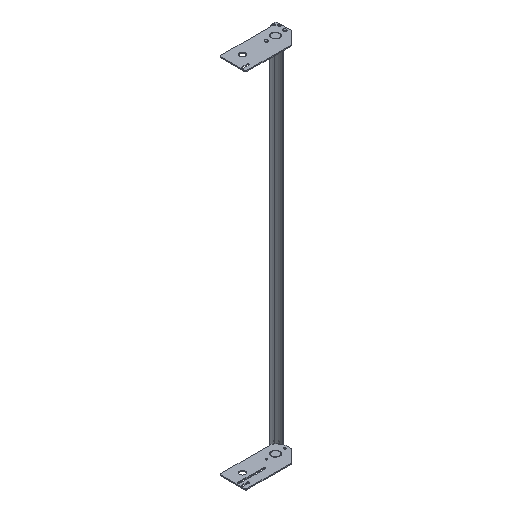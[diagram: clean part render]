
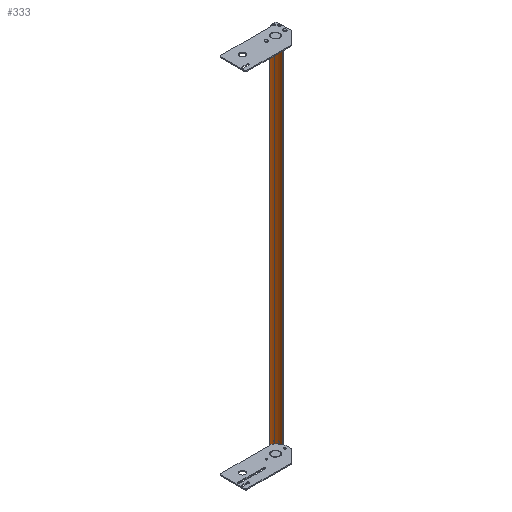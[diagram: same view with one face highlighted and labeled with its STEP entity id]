
A CAD part, isometric view. The second image highlights one B-rep face of the part: STEP entity #333.
In plain terms, the highlighted cylindrical face has radius 40.64 mm (diameter 81.28 mm), a partial arc.
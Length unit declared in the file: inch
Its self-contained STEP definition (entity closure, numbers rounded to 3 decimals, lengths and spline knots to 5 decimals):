
#40=CARTESIAN_POINT('',(-1.52,1.63,-24.118));
#41=DIRECTION('',(0.,0.,-1.));
#42=DIRECTION('',(0.914,-0.405,0.));
#43=AXIS2_PLACEMENT_3D('',#40,#41,#42);
#87=CARTESIAN_POINT('',(-1.52,1.63,24.118));
#88=DIRECTION('',(0.,0.,-1.));
#89=DIRECTION('',(0.914,-0.405,0.));
#90=AXIS2_PLACEMENT_3D('',#87,#88,#89);
#118=DIRECTION('',(0.,0.,1.));
#119=VECTOR('',#118,48.236);
#120=CARTESIAN_POINT('',(-1.00032,0.11675,-24.118));
#121=LINE('',#120,#119);
#122=DIRECTION('',(0.,0.,1.));
#123=VECTOR('',#122,48.236);
#124=CARTESIAN_POINT('',(-0.05742,0.98126,-24.118));
#125=LINE('',#124,#123);
#154=CARTESIAN_POINT('',(-0.05742,0.98126,-24.118));
#155=VERTEX_POINT('',#154);
#156=CARTESIAN_POINT('',(-1.00032,0.11675,-24.118));
#157=VERTEX_POINT('',#156);
#174=CARTESIAN_POINT('',(-0.05742,0.98126,24.118));
#175=VERTEX_POINT('',#174);
#176=CARTESIAN_POINT('',(-1.00032,0.11675,24.118));
#177=VERTEX_POINT('',#176);
#321=CARTESIAN_POINT('',(-1.52,1.63,-24.118));
#322=DIRECTION('',(0.,0.,1.));
#323=DIRECTION('',(1.,0.,0.));
#324=AXIS2_PLACEMENT_3D('',#321,#322,#323);
#325=CYLINDRICAL_SURFACE('',#324,1.6);
#326=ORIENTED_EDGE('',*,*,#191,.F.);
#328=ORIENTED_EDGE('',*,*,#327,.T.);
#329=ORIENTED_EDGE('',*,*,#247,.T.);
#330=ORIENTED_EDGE('',*,*,#314,.F.);
#331=EDGE_LOOP('',(#326,#328,#329,#330));
#332=FACE_OUTER_BOUND('',#331,.F.);
#44=CIRCLE('',#43,1.6);
#91=CIRCLE('',#90,1.6);
#191=EDGE_CURVE('',#155,#157,#44,.T.);
#247=EDGE_CURVE('',#175,#177,#91,.T.);
#314=EDGE_CURVE('',#157,#177,#121,.T.);
#327=EDGE_CURVE('',#155,#175,#125,.T.);
#333=ADVANCED_FACE('',(#332),#325,.F.);
